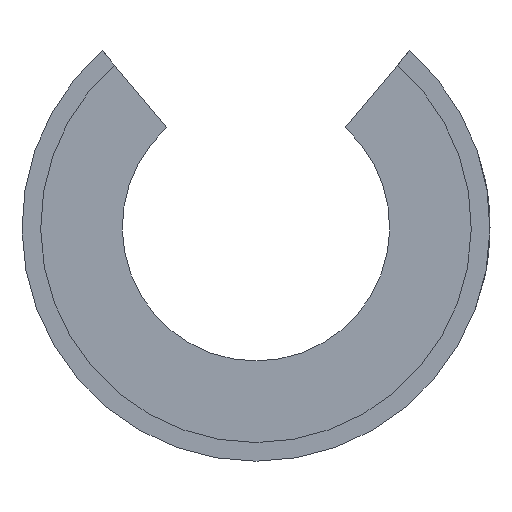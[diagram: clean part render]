
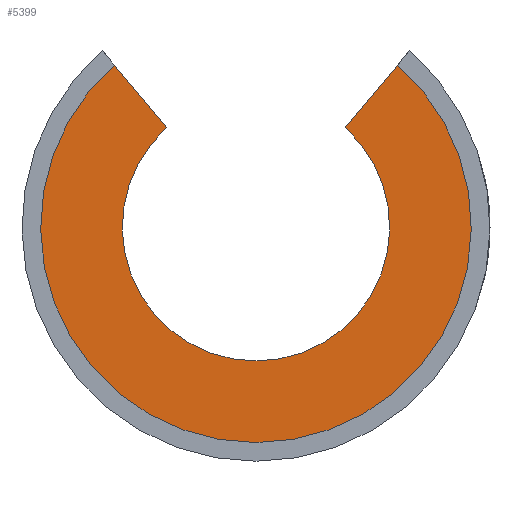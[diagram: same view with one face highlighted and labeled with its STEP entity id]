
A CAD part, left-side view. The second image highlights one B-rep face of the part: STEP entity #5399.
In plain terms, the highlighted planar face has unit normal (-1, 0, 0).
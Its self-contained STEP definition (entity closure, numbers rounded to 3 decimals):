
#122=PLANE('',#5822);
#360=CIRCLE('',#5797,6.);
#373=CIRCLE('',#5823,9.661);
#565=LINE('',#8439,#1030);
#566=LINE('',#8443,#1031);
#1030=VECTOR('',#6432,1000.);
#1031=VECTOR('',#6435,1000.);
#1676=ORIENTED_EDGE('',*,*,#3263,.T.);
#1677=ORIENTED_EDGE('',*,*,#3301,.T.);
#1678=ORIENTED_EDGE('',*,*,#3302,.F.);
#1679=ORIENTED_EDGE('',*,*,#3303,.T.);
#3263=EDGE_CURVE('',#4082,#4081,#360,.F.);
#3301=EDGE_CURVE('',#4081,#4106,#565,.T.);
#3302=EDGE_CURVE('',#4107,#4106,#373,.T.);
#3303=EDGE_CURVE('',#4107,#4082,#566,.T.);
#4081=VERTEX_POINT('',#8363);
#4082=VERTEX_POINT('',#8365);
#4106=VERTEX_POINT('',#8440);
#4107=VERTEX_POINT('',#8442);
#4628=EDGE_LOOP('',(#1676,#1677,#1678,#1679));
#5004=FACE_BOUND('',#4628,.T.);
#5399=ADVANCED_FACE('',(#5004),#122,.T.);
#5797=AXIS2_PLACEMENT_3D('',#8364,#6355,#6356);
#5822=AXIS2_PLACEMENT_3D('',#8438,#6430,#6431);
#5823=AXIS2_PLACEMENT_3D('',#8441,#6433,#6434);
#6355=DIRECTION('',(-1.,0.,0.));
#6356=DIRECTION('',(0.,0.,1.));
#6430=DIRECTION('',(-1.,0.,0.));
#6431=DIRECTION('',(0.,0.,-1.));
#6432=DIRECTION('',(0.,0.643,0.766));
#6433=DIRECTION('',(1.,0.,0.));
#6434=DIRECTION('',(0.,0.,-1.));
#6435=DIRECTION('',(0.,0.643,-0.766));
#8363=CARTESIAN_POINT('',(-14.,4.,4.472));
#8364=CARTESIAN_POINT('',(-14.,0.,0.));
#8365=CARTESIAN_POINT('',(-14.,-4.,4.472));
#8438=CARTESIAN_POINT('',(-14.,0.,0.));
#8439=CARTESIAN_POINT('',(-14.,4.,4.472));
#8440=CARTESIAN_POINT('',(-14.,6.354,7.277));
#8441=CARTESIAN_POINT('',(-14.,0.,0.));
#8442=CARTESIAN_POINT('',(-14.,-6.354,7.277));
#8443=CARTESIAN_POINT('',(-14.,-4.,4.472));
